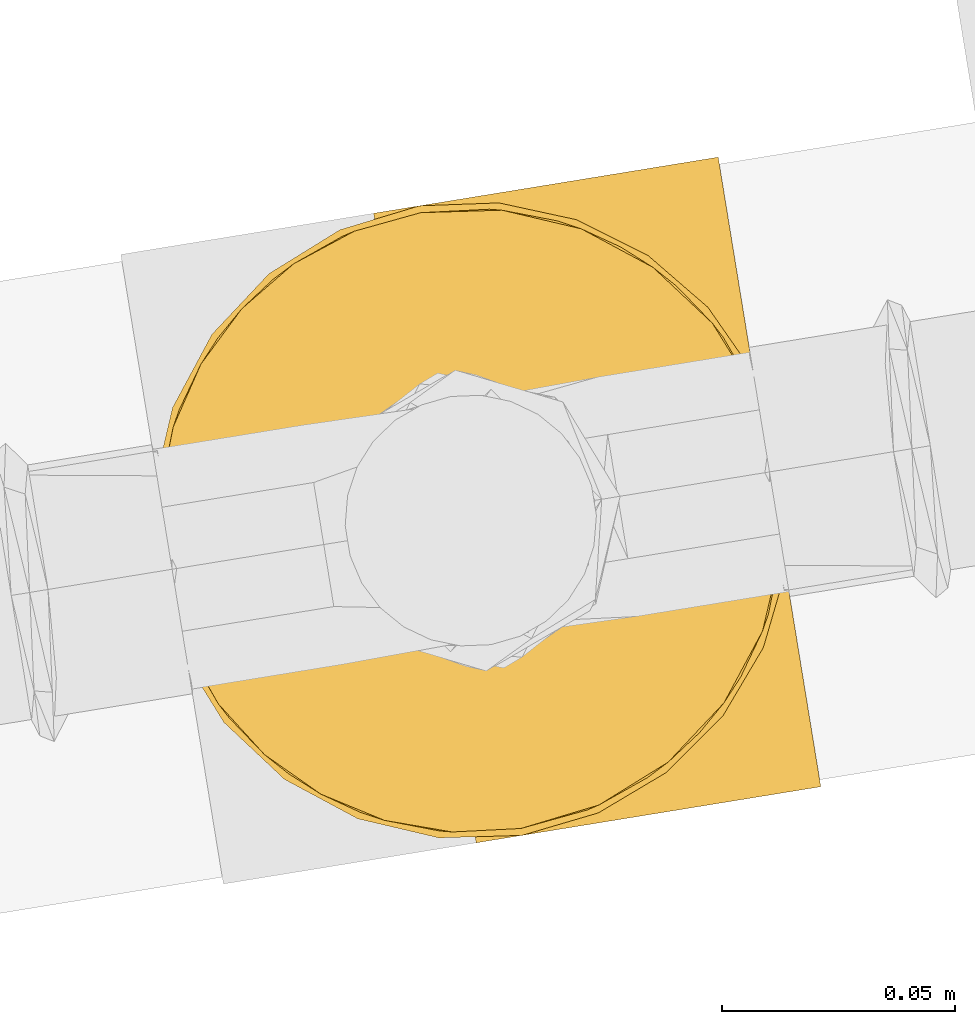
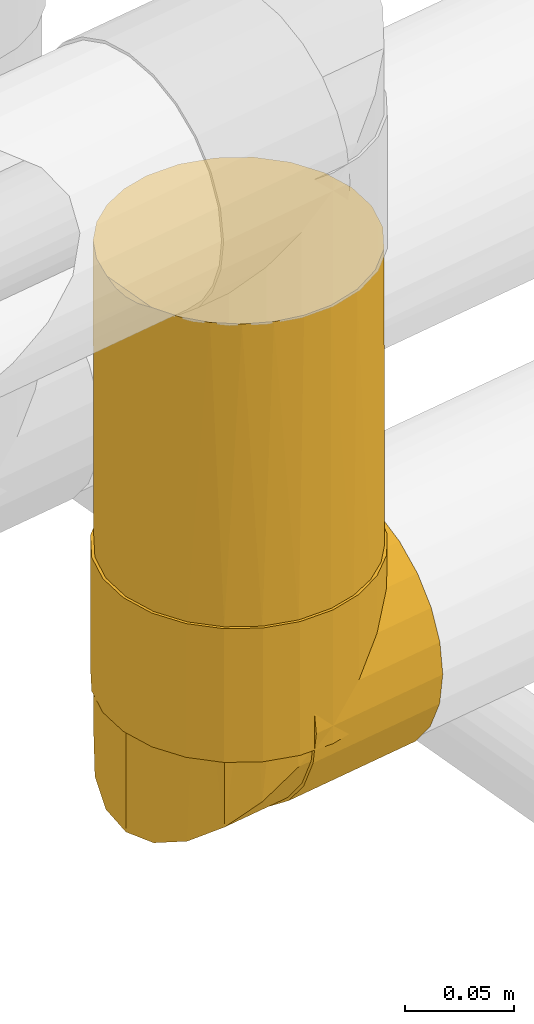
# One storey, part 5 of 56: 2 coverings.
"""IFC2X3 building model written with IfcOpenShell, lengths in millimetres."""

from ifc_helpers import new_model, entity, si_unit, converted_unit, derived_unit, direction, frame, origin, origin_with_axes, place, context, subcontext, project, spatial, faceted_brep, material, type_object, element, save


model = new_model("IFC2X3")

# Units and contexts
model_context = context("Model", 3, precision=0.01, world=origin(), true_north=direction((6.12323399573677e-17, 1.0)))
plan_context = context("Plan", 3, precision=1e-05, world=origin_with_axes())
body_context = subcontext(model_context, "Body", "Model", "MODEL_VIEW")
ifc_project = project(units=[converted_unit("PLANEANGLEUNIT", "DEGREE", entity("IfcPositiveLengthMeasure", 0.0174532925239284), si_unit("PLANEANGLEUNIT", "RADIAN"), dimensions=[0, 0, 0, 0, 0, 0, 0]), si_unit("AREAUNIT", "SQUARE_METRE"), si_unit("LENGTHUNIT", "METRE", prefix="MILLI"), si_unit("MASSUNIT", "GRAM", prefix="KILO"), si_unit("POWERUNIT", "WATT"), si_unit("PRESSUREUNIT", "PASCAL", prefix="KILO"), si_unit("FORCEUNIT", "NEWTON", prefix="KILO"), si_unit("ELECTRICVOLTAGEUNIT", "VOLT"), si_unit("ELECTRICCURRENTUNIT", "AMPERE"), si_unit("THERMODYNAMICTEMPERATUREUNIT", "DEGREE_CELSIUS"), si_unit("TIMEUNIT", "SECOND"), si_unit("VOLUMEUNIT", "CUBIC_METRE"), derived_unit("LINEARVELOCITYUNIT", [(si_unit("LENGTHUNIT", "METRE"), 1), (si_unit("TIMEUNIT", "SECOND"), -1)]), derived_unit("VOLUMETRICFLOWRATEUNIT", [(si_unit("VOLUMEUNIT", "CUBIC_METRE"), 1), (si_unit("TIMEUNIT", "SECOND"), -1)]), derived_unit("THERMALTRANSMITTANCEUNIT", [(si_unit("POWERUNIT", "WATT"), 1), (si_unit("THERMODYNAMICTEMPERATUREUNIT", "KELVIN"), -1), (si_unit("AREAUNIT", "SQUARE_METRE"), -1)]), derived_unit("SOUNDPRESSUREUNIT", [(si_unit("PRESSUREUNIT", "PASCAL"), 1)])], contexts=[model_context, plan_context])

# Site, building, storey
site_placement = place(None, frame((-3.09682673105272e-06, 1.93776733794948e-05, 0.0), z_axis=(0.0, 0.0, 1.0), x_axis=(-0.160806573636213, 0.986985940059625, 0.0)))
site = spatial("IfcSite", under=ifc_project, at=site_placement, Name="Default", CompositionType="ELEMENT")
building_placement = place(site_placement, frame((0.0, 0.0, 0.0), z_axis=(0.0, 0.0, 1.0), x_axis=(1.0, -2.77555756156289e-17, 0.0)))
building = spatial("IfcBuilding", under=site, at=building_placement, Name="Bygning (endres i Project Information)", CompositionType="ELEMENT")
storey_placement = place(building_placement, frame((0.0, 0.0, 51360.0000000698), z_axis=(0.0, 0.0, 1.0), x_axis=(1.0, -2.77555756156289e-17, 0.0)))
storey = spatial("IfcBuildingStorey", under=building, at=storey_placement, Name="H01-Nivå D+0,36", CompositionType="ELEMENT", Elevation=51360.0000000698)

# Coverings
ifc_material = material(Name="3200.003 Tur")
covering_type = type_object("IfcCoveringType", Name="Pipe Insulation:GLAVA Rørskål ClimPipe Alu2, isol.kl.4, 45°C", PredefinedType="INSULATION")
covering_1_placement = place(storey_placement, frame((1010968.34157057, -395258.352574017, 3229.9047277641), z_axis=(0.0, 0.0, 1.0), x_axis=(1.0, -2.77555756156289e-17, 0.0)))
element("IfcCovering", 1, at=covering_1_placement, inside=storey, type_object=covering_type, material=ifc_material, Name="Pipe Insulation:GLAVA Rørskål ClimPipe Alu2, isol.kl.4, 45°C", ObjectType="Pipe Insulation:GLAVA Rørskål ClimPipe Alu2, isol.kl.4, 45°C", PredefinedType="INSULATION", context=body_context, shape_type="Brep", body=[
    faceted_brep([(91.7112385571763, 1.59527223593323, 135.095272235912), (91.7112385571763, 76.5952722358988, 135.095272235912), (48.4793059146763, 76.5952722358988, 135.095272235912), (48.4793059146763, 1.59527223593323, 135.095272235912), (3.7245730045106, 76.5952722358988, 87.0416666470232), (9.9789826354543, 76.5952722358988, 102.932472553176), (19.9694770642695, 76.5952722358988, 116.782044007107), (33.074486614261, 76.5952722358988, 127.729562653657), (107.116057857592, 76.5952722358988, 127.729562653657), (120.221067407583, 76.5952722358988, 116.782044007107), (130.211561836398, 76.5952722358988, 102.932472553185), (136.465971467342, 76.5952722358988, 87.0416666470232), (138.595272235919, 76.5952722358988, 70.095272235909), (136.261191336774, 76.5952722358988, 52.366167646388), (129.418012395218, 76.5952722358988, 35.8452722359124), (118.532086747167, 76.5952722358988, 21.658457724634), (104.345272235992, 76.5952722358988, 10.7725320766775), (87.8243768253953, 76.5952722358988, 3.92935313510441), (70.0952722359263, 76.5952722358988, 1.59527223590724), (52.3661676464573, 76.5952722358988, 3.92935313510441), (35.8452722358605, 76.5952722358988, 10.7725320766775), (21.658457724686, 76.5952722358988, 21.6584577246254), (10.7725320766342, 76.5952722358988, 35.8452722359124), (3.92935313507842, 76.5952722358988, 52.366167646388), (1.59527223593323, 76.5952722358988, 70.095272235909), (107.116057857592, 1.59527223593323, 127.729562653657), (120.221067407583, 1.59527223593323, 116.782044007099), (130.211561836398, 1.59527223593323, 102.932472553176), (136.465971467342, 1.59527223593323, 87.0416666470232), (138.595272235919, 1.59527223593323, 70.095272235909), (136.261191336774, 1.59527223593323, 52.366167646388), (129.418012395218, 1.59527223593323, 35.8452722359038), (118.532086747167, 1.59527223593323, 21.6584577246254), (104.345272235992, 1.59527223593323, 10.7725320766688), (87.8243768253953, 1.59527223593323, 3.92935313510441), (70.0952722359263, 1.59527223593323, 1.59527223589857), (52.3661676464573, 1.59527223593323, 3.92935313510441), (35.8452722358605, 1.59527223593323, 10.7725320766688), (21.658457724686, 1.59527223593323, 21.6584577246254), (10.7725320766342, 1.59527223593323, 35.8452722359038), (3.92935313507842, 1.59527223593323, 52.366167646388), (1.59527223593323, 1.59527223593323, 70.095272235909), (3.7245730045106, 1.59527223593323, 87.0416666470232), (9.9789826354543, 1.59527223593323, 102.932472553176), (19.9694770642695, 1.59527223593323, 116.782044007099), (33.074486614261, 1.59527223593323, 127.729562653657)], [[[0, 1, 2, 3]], [[4, 5, 6, 7, 2, 1, 8, 9, 10, 11, 12, 13, 14, 15, 16, 17, 18, 19, 20, 21, 22, 23, 24]], [[25, 26, 9, 8]], [[0, 25, 8, 1]], [[26, 27, 10, 9]], [[10, 27, 28, 11]], [[11, 28, 29, 12]], [[13, 30, 31, 14]], [[14, 31, 32, 15]], [[12, 29, 30, 13]], [[16, 33, 34, 17]], [[17, 34, 35, 18]], [[15, 32, 33, 16]], [[19, 36, 37, 20]], [[20, 37, 38, 21]], [[35, 36, 19, 18]], [[22, 39, 40, 23]], [[23, 40, 41, 24]], [[21, 38, 39, 22]], [[24, 41, 42, 4]], [[4, 42, 43, 5]], [[43, 44, 6, 5]], [[6, 44, 45, 7]], [[7, 45, 3, 2]], [[28, 27, 26, 25, 0, 3, 45, 44, 43, 42, 41, 40, 39, 38, 37, 36, 35, 34, 33, 32, 31, 30, 29]]]),
    faceted_brep([(48.4793059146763, 1.59527223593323, 60.0952722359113), (91.7112385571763, 1.59527223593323, 60.0952722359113), (91.7112385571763, 1.59527223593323, 135.095272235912), (48.4793059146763, 1.59527223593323, 135.095272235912), (3.92935313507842, 84.3243768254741, 60.0952722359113), (10.7725320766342, 100.845272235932, 60.0952722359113), (21.658457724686, 115.032086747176, 60.0952722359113), (35.8452722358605, 125.918012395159, 60.0952722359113), (52.3661676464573, 132.761191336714, 60.0952722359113), (70.0952722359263, 135.095272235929, 60.0952722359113), (87.8243768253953, 132.761191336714, 60.0952722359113), (104.345272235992, 125.918012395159, 60.0952722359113), (118.532086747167, 115.032086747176, 60.0952722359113), (129.418012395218, 100.845272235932, 60.0952722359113), (136.261191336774, 84.3243768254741, 60.0952722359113), (138.595272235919, 66.5952722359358, 60.0952722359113), (136.465971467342, 49.6488778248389, 60.0952722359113), (130.211561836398, 33.7580719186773, 60.0952722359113), (120.221067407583, 19.9085004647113, 60.0952722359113), (107.116057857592, 8.96098181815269, 60.0952722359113), (33.074486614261, 8.96098181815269, 60.0952722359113), (19.9694770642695, 19.9085004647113, 60.0952722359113), (9.9789826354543, 33.7580719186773, 60.0952722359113), (3.7245730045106, 49.6488778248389, 60.0952722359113), (1.59527223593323, 66.5952722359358, 60.0952722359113), (70.0952722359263, 135.095272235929, 135.095272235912), (87.8243768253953, 132.761191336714, 135.095272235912), (104.345272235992, 125.918012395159, 135.095272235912), (118.532086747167, 115.032086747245, 135.095272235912), (129.418012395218, 100.845272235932, 135.095272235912), (136.261191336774, 84.3243768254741, 135.095272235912), (138.595272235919, 66.5952722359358, 135.095272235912), (136.465971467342, 49.6488778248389, 135.095272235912), (130.211561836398, 33.7580719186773, 135.095272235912), (120.221067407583, 19.9085004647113, 135.095272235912), (107.116057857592, 8.96098181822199, 135.095272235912), (33.074486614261, 8.96098181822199, 135.095272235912), (19.9694770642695, 19.9085004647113, 135.095272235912), (9.9789826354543, 33.7580719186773, 135.095272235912), (3.7245730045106, 49.6488778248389, 135.095272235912), (1.59527223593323, 66.5952722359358, 135.095272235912), (3.92935313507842, 84.3243768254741, 135.095272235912), (10.7725320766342, 100.845272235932, 135.095272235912), (21.658457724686, 115.032086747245, 135.095272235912), (35.8452722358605, 125.918012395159, 135.095272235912), (52.3661676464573, 132.761191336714, 135.095272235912)], [[[0, 1, 2, 3]], [[4, 5, 6, 7, 8, 9, 10, 11, 12, 13, 14, 15, 16, 17, 18, 19, 1, 0, 20, 21, 22, 23, 24]], [[25, 26, 10, 9]], [[12, 11, 27, 28]], [[27, 11, 10, 26]], [[13, 29, 30, 14]], [[14, 30, 31, 15]], [[12, 28, 29, 13]], [[15, 31, 32, 16]], [[16, 32, 33, 17]], [[33, 34, 18, 17]], [[18, 34, 35, 19]], [[19, 35, 2, 1]], [[0, 3, 36, 20]], [[20, 36, 37, 21]], [[37, 38, 22, 21]], [[22, 38, 39, 23]], [[23, 39, 40, 24]], [[4, 41, 42, 5]], [[5, 42, 43, 6]], [[40, 41, 4, 24]], [[7, 44, 45, 8]], [[8, 45, 25, 9]], [[6, 43, 44, 7]], [[2, 35, 34, 33, 32, 31, 30, 29, 28, 27, 26, 25, 45, 44, 43, 42, 41, 40, 39, 38, 37, 36, 3]]]),
    faceted_brep([(123.109968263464, 25.6264791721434, 135.095272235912), (133.502624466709, 44.9502339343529, 135.095272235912), (137.095272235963, 66.5952722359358, 135.095272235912), (134.545236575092, 79.4151672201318, 135.095272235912), (131.99520091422, 92.2350622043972, 135.095272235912), (124.733313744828, 103.103244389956, 135.095272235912), (117.471426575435, 113.971426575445, 135.095272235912), (106.603244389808, 121.233313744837, 135.095272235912), (95.7350622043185, 128.49520091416, 135.095272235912), (82.9151672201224, 131.045236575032, 135.095272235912), (70.0952722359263, 133.595272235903, 135.095272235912), (57.2753772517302, 131.045236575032, 135.095272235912), (44.4554822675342, 128.49520091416, 135.095272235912), (33.5873000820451, 121.233313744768, 135.095272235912), (22.7191178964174, 113.971426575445, 135.095272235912), (15.4572307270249, 103.103244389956, 135.095272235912), (8.19534355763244, 92.2350622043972, 135.095272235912), (5.64530789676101, 79.4151672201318, 135.095272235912), (3.09527223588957, 66.5952722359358, 135.095272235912), (6.68792000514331, 44.9502339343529, 135.095272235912), (17.0805762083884, 25.6264791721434, 135.095272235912), (25.11963758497, 18.1614143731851, 135.095272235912), (29.1391682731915, 14.4288819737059, 135.095272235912), (33.158698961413, 10.6963495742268, 135.095272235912), (38.1685288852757, 8.46251224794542, 135.095272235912), (40.6734438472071, 7.34559358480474, 135.095272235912), (43.1783588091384, 6.22867492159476, 135.095272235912), (44.4308162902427, 5.67021558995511, 135.095272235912), (45.6832737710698, 5.11175625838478, 135.095272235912), (46.9357312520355, 4.55329692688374, 135.095272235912), (48.1881887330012, 3.9948375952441, 135.095272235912), (48.8144174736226, 3.71560792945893, 135.095272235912), (49.4406462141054, 3.43637826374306, 135.095272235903), (50.0668749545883, 3.15714859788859, 135.095272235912), (50.6931036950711, 2.87791893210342, 135.095272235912), (51.319332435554, 2.59868926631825, 135.09527223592), (51.6324468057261, 2.45907443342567, 135.095272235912), (51.9455611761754, 2.31945960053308, 135.09527223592), (52.2586755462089, 2.1798447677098, 135.095272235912), (52.5717899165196, 2.04022993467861, 135.095272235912), (52.7283471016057, 1.97042251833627, 135.095272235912), (52.8849042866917, 1.90061510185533, 135.095272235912), (53.0414614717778, 1.83080768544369, 135.095272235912), (53.1197400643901, 1.79590397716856, 135.095272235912), (53.1980186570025, 1.76100026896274, 135.095272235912), (86.9925258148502, 1.76100026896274, 135.095272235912), (87.0708044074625, 1.79590397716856, 135.095272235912), (87.1490830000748, 1.83080768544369, 135.095272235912), (87.3056401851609, 1.90061510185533, 135.095272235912), (87.4621973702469, 1.97042251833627, 135.095272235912), (87.618754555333, 2.04022993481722, 135.095272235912), (87.9318689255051, 2.1798447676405, 135.095272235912), (88.2449832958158, 2.31945960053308, 135.095272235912), (88.5580976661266, 2.45907443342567, 135.095272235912), (88.8712120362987, 2.59868926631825, 135.095272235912), (89.4974407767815, 2.87791893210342, 135.095272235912), (90.1236695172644, 3.15714859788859, 135.095272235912), (90.7498982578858, 3.43637826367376, 135.095272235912), (91.37612699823, 3.71560792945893, 135.095272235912), (92.0023557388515, 3.9948375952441, 135.095272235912), (93.2548132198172, 4.55329692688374, 135.095272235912), (94.5072707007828, 5.11175625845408, 135.095272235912), (95.7597281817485, 5.67021559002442, 135.095272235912), (97.0121856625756, 6.22867492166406, 135.095272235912), (99.5171006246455, 7.34559358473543, 135.095272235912), (102.022015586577, 8.46251224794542, 135.095272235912), (107.03184551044, 10.6963495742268, 135.095272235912), (111.0513761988, 14.4288819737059, 135.095272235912), (115.070906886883, 18.1614143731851, 135.095272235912), (52.7543962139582, 1.59527223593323, 5.3782418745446), (70.0952722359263, 1.59527223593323, 3.0952722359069), (87.4361482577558, 1.59527223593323, 5.3782418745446), (103.595272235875, 1.59527223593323, 12.0715701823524), (117.471426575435, 1.59527223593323, 22.7191178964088), (128.118974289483, 1.59527223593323, 36.5952722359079), (134.812302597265, 1.59527223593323, 52.7543962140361), (137.095272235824, 1.59527223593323, 70.095272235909), (135.490509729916, 1.59527223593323, 84.6713798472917), (130.753095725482, 1.59527223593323, 98.5492429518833), (123.109968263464, 1.59527223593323, 111.064065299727), (112.927258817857, 1.59527223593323, 121.616344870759), (100.692753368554, 1.59527223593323, 129.700592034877), (86.9925258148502, 1.59527223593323, 134.929544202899), (53.1980186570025, 1.59527223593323, 134.929544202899), (39.4977911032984, 1.59527223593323, 129.700592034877), (27.2632856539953, 1.59527223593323, 121.616344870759), (17.0805762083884, 1.59527223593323, 111.064065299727), (9.43744874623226, 1.59527223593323, 98.5492429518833), (4.7000347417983, 1.59527223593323, 84.6713798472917), (3.09527223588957, 1.59527223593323, 70.095272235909), (5.37824187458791, 1.59527223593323, 52.7543962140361), (12.0715701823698, 1.59527223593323, 36.5952722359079), (22.7191178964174, 1.59527223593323, 22.7191178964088), (36.5952722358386, 1.59527223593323, 12.0715701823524), (86.9925258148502, 1.76100026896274, 134.929544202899), (53.1980186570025, 1.76100026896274, 134.929544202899), (27.2632856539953, 15.0741996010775, 121.616344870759), (17.0805762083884, 25.6264791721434, 111.064065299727), (39.4977911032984, 6.98995243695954, 129.700592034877), (36.4391647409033, 9.01101422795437, 127.679530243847), (33.3805383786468, 11.0320760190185, 125.658468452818), (53.0909856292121, 1.80185145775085, 134.888693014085), (52.8769195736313, 1.88355383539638, 134.806990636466), (52.7698865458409, 1.92440502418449, 134.766139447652), (52.5558204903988, 2.00610740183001, 134.684437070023), (52.341754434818, 2.08780977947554, 134.602734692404), (51.9136223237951, 2.25121453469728, 134.439329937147), (51.4854902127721, 2.41461928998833, 134.2759251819), (51.0573581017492, 2.57802404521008, 134.112520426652), (50.6292259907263, 2.74142880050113, 133.949115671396), (49.7729617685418, 3.06823831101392, 133.6223061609), (48.9166975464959, 3.39504782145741, 133.295496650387), (48.0604333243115, 3.7218573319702, 132.968687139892), (46.3479048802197, 4.37547635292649, 132.315068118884), (44.6353764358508, 5.02909537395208, 131.661449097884), (42.922847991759, 5.68271439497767, 131.007830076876), (4.70003474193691, 52.019164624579, 84.6713798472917), (3.09527223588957, 66.5952722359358, 70.095272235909), (9.43744874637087, 38.1413015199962, 98.5492429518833), (5.37824187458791, 83.9361482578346, 52.7543962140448), (12.0715701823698, 100.095272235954, 36.5952722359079), (22.7191178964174, 113.971426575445, 22.7191178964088), (36.5952722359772, 124.618974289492, 12.0715701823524), (52.7543962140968, 131.312302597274, 5.3782418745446), (70.0952722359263, 133.595272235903, 3.0952722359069), (87.4361482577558, 131.312302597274, 5.3782418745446), (103.595272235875, 124.618974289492, 12.0715701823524), (117.471426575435, 113.971426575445, 22.7191178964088), (128.118974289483, 100.095272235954, 36.5952722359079), (134.812302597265, 83.9361482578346, 52.7543962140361), (137.095272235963, 66.5952722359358, 70.095272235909), (135.490509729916, 52.019164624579, 84.6713798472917), (130.753095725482, 38.1413015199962, 98.5492429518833), (123.109968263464, 25.6264791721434, 111.064065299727), (100.692753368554, 6.98995243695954, 129.700592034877), (97.2676964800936, 5.68271439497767, 131.007830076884), (95.5551680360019, 5.02909537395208, 131.661449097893), (93.8426395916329, 4.37547635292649, 132.315068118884), (92.1301111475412, 3.7218573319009, 132.968687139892), (91.2738469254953, 3.39504782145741, 133.295496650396), (90.4175827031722, 3.06823831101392, 133.622306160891), (89.5613184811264, 2.74142880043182, 133.949115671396), (89.1331863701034, 2.57802404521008, 134.112520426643), (88.7050542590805, 2.41461928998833, 134.275925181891), (88.276922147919, 2.25121453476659, 134.439329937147), (87.8487900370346, 2.08780977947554, 134.602734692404), (87.6347239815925, 2.00610740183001, 134.684437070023), (87.4206579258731, 1.92440502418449, 134.766139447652), (87.3136248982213, 1.88355383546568, 134.806990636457), (87.2065918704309, 1.84270264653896, 134.84784182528), (87.0995588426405, 1.80185145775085, 134.888693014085), (112.927258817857, 15.0741996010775, 121.616344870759), (106.810006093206, 11.0320760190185, 125.658468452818), (103.751379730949, 9.01101422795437, 127.679530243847), (52.9839526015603, 1.84270264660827, 134.847841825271)], [[[0, 1, 2, 3, 4, 5, 6, 7, 8, 9, 10, 11, 12, 13, 14, 15, 16, 17, 18, 19, 20, 21, 22, 23, 24, 25, 26, 27, 28, 29, 30, 31, 32, 33, 34, 35, 36, 37, 38, 39, 40, 41, 42, 43, 44, 45, 46, 47, 48, 49, 50, 51, 52, 53, 54, 55, 56, 57, 58, 59, 60, 61, 62, 63, 64, 65, 66, 67, 68]], [[69, 70, 71, 72, 73, 74, 75, 76, 77, 78, 79, 80, 81, 82, 83, 84, 85, 86, 87, 88, 89, 90, 91, 92, 93]], [[83, 82, 94, 95]], [[85, 96, 97, 86]], [[85, 84, 98, 99, 100, 96]], [[83, 95, 101, 84]], [[84, 102, 103]], [[84, 104, 105, 106, 107, 108, 109, 110, 111, 112, 113, 114, 115, 98]], [[116, 117, 89, 88]], [[118, 116, 88, 87]], [[97, 118, 87, 86]], [[90, 89, 117, 119]], [[91, 90, 119, 120]], [[120, 121, 92, 91]], [[69, 93, 122, 123]], [[70, 69, 123, 124]], [[121, 122, 93, 92]], [[70, 124, 125, 71]], [[71, 125, 126, 72]], [[72, 126, 127, 73]], [[73, 127, 128, 74]], [[74, 128, 129, 75]], [[130, 76, 75, 129]], [[131, 132, 78, 77]], [[130, 131, 77, 76]], [[78, 132, 133, 79]], [[81, 134, 135, 136, 137, 138, 139, 140, 141, 142, 143, 144, 145, 146, 147, 148, 149, 150, 94, 82]], [[80, 151, 152, 153, 134, 81]], [[79, 133, 151, 80]], [[95, 94, 45, 44]], [[114, 27, 115]], [[112, 29, 113]], [[113, 29, 28]], [[23, 100, 99]], [[112, 111, 31]], [[98, 24, 99]], [[97, 96, 21]], [[22, 100, 23]], [[21, 20, 97]], [[96, 22, 21]], [[118, 20, 19]], [[25, 115, 27, 26]], [[23, 99, 24]], [[116, 19, 18]], [[100, 22, 96]], [[116, 118, 19]], [[117, 116, 18]], [[98, 25, 24]], [[114, 113, 28]], [[20, 118, 97]], [[34, 109, 108]], [[115, 25, 98]], [[111, 110, 32]], [[29, 112, 30]], [[38, 37, 106]], [[114, 28, 27]], [[110, 33, 32]], [[109, 33, 110]], [[112, 31, 30]], [[108, 107, 35]], [[33, 109, 34]], [[111, 32, 31]], [[40, 39, 104]], [[107, 36, 35]], [[106, 36, 107]], [[34, 108, 35]], [[106, 105, 38]], [[36, 106, 37]], [[154, 42, 41]], [[105, 39, 38]], [[104, 103, 40]], [[39, 105, 104]], [[101, 43, 42]], [[103, 41, 40]], [[41, 102, 154]], [[41, 103, 102]], [[43, 95, 44]], [[42, 154, 101]], [[95, 43, 101]], [[120, 16, 15]], [[117, 17, 119]], [[16, 120, 119]], [[15, 121, 120]], [[13, 121, 14]], [[17, 16, 119]], [[14, 121, 15]], [[17, 117, 18]], [[121, 13, 122]], [[10, 124, 11]], [[12, 123, 122]], [[124, 123, 11]], [[123, 12, 11]], [[13, 12, 122]], [[124, 9, 125]], [[9, 124, 10]], [[7, 6, 127]], [[7, 127, 126]], [[126, 8, 7]], [[125, 8, 126]], [[5, 4, 128]], [[5, 127, 6]], [[127, 5, 128]], [[9, 8, 125]], [[2, 130, 3]], [[4, 129, 128]], [[130, 129, 3]], [[129, 4, 3]], [[131, 2, 1]], [[134, 65, 64]], [[0, 132, 1]], [[133, 132, 0]], [[151, 68, 67]], [[131, 130, 2]], [[132, 131, 1]], [[66, 153, 152]], [[64, 63, 62, 135]], [[141, 140, 56]], [[67, 66, 152]], [[60, 59, 58, 138]], [[137, 60, 138]], [[153, 66, 65]], [[151, 67, 152]], [[64, 135, 134]], [[133, 68, 151]], [[136, 62, 61]], [[68, 133, 0]], [[137, 61, 60]], [[65, 134, 153]], [[61, 137, 136]], [[144, 143, 53]], [[139, 58, 57]], [[56, 55, 141]], [[135, 62, 136]], [[140, 57, 56]], [[57, 140, 139]], [[50, 146, 145]], [[142, 55, 54]], [[53, 52, 51, 144]], [[55, 142, 141]], [[138, 58, 139]], [[143, 54, 53]], [[48, 148, 147]], [[54, 143, 142]], [[145, 51, 50]], [[144, 51, 145]], [[47, 150, 149]], [[49, 146, 50]], [[147, 49, 48]], [[146, 49, 147]], [[46, 94, 150]], [[48, 149, 148]], [[149, 48, 47]], [[94, 46, 45]], [[150, 47, 46]], [[84, 101, 154]], [[84, 103, 104]], [[84, 154, 102]]]),
])
covering_2_placement = place(storey_placement, frame((1010969.84157057, -395260.352574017, 3363.40472776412), z_axis=(0.0, 0.0, 1.0), x_axis=(1.0, -2.77555756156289e-17, 0.0)))
element("IfcCovering", 2, at=covering_2_placement, inside=storey, type_object=covering_type, Name="Pipe Insulation:GLAVA Rørskål ClimPipe Alu2, isol.kl.4, 45°C", ObjectType="Pipe Insulation:GLAVA Rørskål ClimPipe Alu2, isol.kl.4, 45°C", PredefinedType="INSULATION", context=body_context, shape_type="Brep", body=[
    faceted_brep([(3.22798129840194, 53.8943445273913, 1.59527223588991), (1.59527223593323, 68.5952722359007, 1.59527223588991), (3.87824187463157, 85.9361482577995, 1.59527223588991), (10.5715701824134, 102.095272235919, 1.59527223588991), (21.2191178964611, 115.97142657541, 1.59527223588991), (35.0952722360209, 126.618974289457, 1.59527223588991), (51.2543962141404, 133.312302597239, 1.59527223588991), (68.59527223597, 135.595272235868, 1.59527223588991), (85.9361482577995, 133.312302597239, 1.59527223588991), (102.095272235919, 126.618974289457, 1.59527223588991), (115.971426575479, 115.97142657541, 1.59527223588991), (126.618974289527, 102.095272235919, 1.59527223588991), (133.312302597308, 85.9361482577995, 1.59527223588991), (135.595272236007, 68.5952722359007, 1.59527223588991), (133.962563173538, 53.8943445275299, 1.59527223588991), (129.153520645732, 39.9299874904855, 1.59527223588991), (121.401493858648, 27.3581171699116, 1.59527223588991), (111.084056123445, 16.7908009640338, 1.59527223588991), (98.6988512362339, 8.73898993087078, 1.59527223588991), (84.8433490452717, 3.59527223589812, 1.59527223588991), (52.3471954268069, 3.59527223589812, 1.59527223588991), (38.491693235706, 8.73898993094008, 1.59527223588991), (26.1064883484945, 16.7908009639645, 1.59527223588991), (15.7890506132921, 27.3581171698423, 1.59527223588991), (8.03702382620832, 39.9299874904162, 1.59527223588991), (3.87824187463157, 51.2543962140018, 171.595272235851), (10.5715701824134, 35.0952722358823, 171.595272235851), (21.2191178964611, 21.2191178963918, 171.595272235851), (35.0952722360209, 10.5715701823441, 171.595272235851), (51.2543962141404, 3.87824187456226, 171.595272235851), (68.59527223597, 1.59527223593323, 171.595272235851), (85.9361482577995, 3.87824187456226, 171.595272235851), (102.095272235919, 10.5715701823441, 171.595272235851), (115.971426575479, 21.2191178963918, 171.595272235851), (126.618974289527, 35.0952722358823, 171.595272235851), (133.312302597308, 51.2543962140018, 171.595272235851), (135.595272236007, 68.5952722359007, 171.595272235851), (133.962563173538, 83.29619994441, 171.595272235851), (129.153520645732, 97.2605569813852, 171.595272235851), (121.401493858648, 109.832427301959, 171.595272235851), (111.084056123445, 120.399743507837, 171.595272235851), (98.6988512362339, 128.451554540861, 171.595272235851), (84.8433490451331, 133.595272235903, 171.595272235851), (52.3471954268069, 133.595272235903, 171.595272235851), (38.491693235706, 128.451554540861, 171.595272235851), (26.1064883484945, 120.399743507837, 171.595272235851), (15.7890506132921, 109.832427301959, 171.595272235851), (8.03702382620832, 97.2605569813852, 171.595272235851), (3.22798129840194, 83.29619994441, 171.595272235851), (1.59527223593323, 68.5952722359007, 171.595272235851), (60.4099194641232, 135.093392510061, 170.097151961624), (68.59527223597, 135.595272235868, 169.595272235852), (76.7806250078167, 135.093392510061, 170.097151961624), (76.7806250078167, 2.0971519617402, 3.09339251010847), (68.59527223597, 1.59527223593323, 3.59527223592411), (60.4099194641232, 2.0971519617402, 3.09339251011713)], [[[0, 1, 2, 3, 4, 5, 6, 7, 8, 9, 10, 11, 12, 13, 14, 15, 16, 17, 18, 19, 20, 21, 22, 23, 24]], [[25, 26, 27, 28, 29, 30, 31, 32, 33, 34, 35, 36, 37, 38, 39, 40, 41, 42, 43, 44, 45, 46, 47, 48, 49]], [[49, 48, 1]], [[47, 46, 3]], [[48, 47, 2]], [[2, 1, 48]], [[3, 2, 47]], [[46, 4, 3]], [[46, 45, 4]], [[5, 45, 44]], [[44, 43, 6]], [[50, 6, 43]], [[5, 44, 6]], [[7, 6, 50]], [[51, 7, 50]], [[45, 5, 4]], [[8, 52, 42]], [[8, 42, 41]], [[9, 41, 40]], [[51, 52, 7]], [[7, 52, 8]], [[41, 9, 8]], [[40, 10, 9]], [[11, 39, 38]], [[12, 38, 37]], [[13, 37, 36]], [[10, 39, 11]], [[11, 38, 12]], [[37, 13, 12]], [[39, 10, 40]], [[14, 36, 35]], [[15, 35, 34]], [[16, 34, 33]], [[13, 36, 14]], [[14, 35, 15]], [[34, 16, 15]], [[33, 17, 16]], [[18, 32, 31]], [[31, 30, 53]], [[54, 53, 30]], [[17, 32, 18]], [[19, 18, 31]], [[53, 19, 31]], [[32, 17, 33]], [[55, 54, 30]], [[55, 30, 29]], [[21, 29, 28]], [[55, 29, 20]], [[20, 29, 21]], [[28, 22, 21]], [[28, 27, 22]], [[23, 27, 26]], [[24, 26, 25]], [[0, 25, 49]], [[23, 26, 24]], [[24, 25, 0]], [[49, 1, 0]], [[27, 23, 22]], [[55, 20, 19, 53, 54]], [[50, 43, 42, 52, 51]]]),
])

save(model, "model.ifc")
